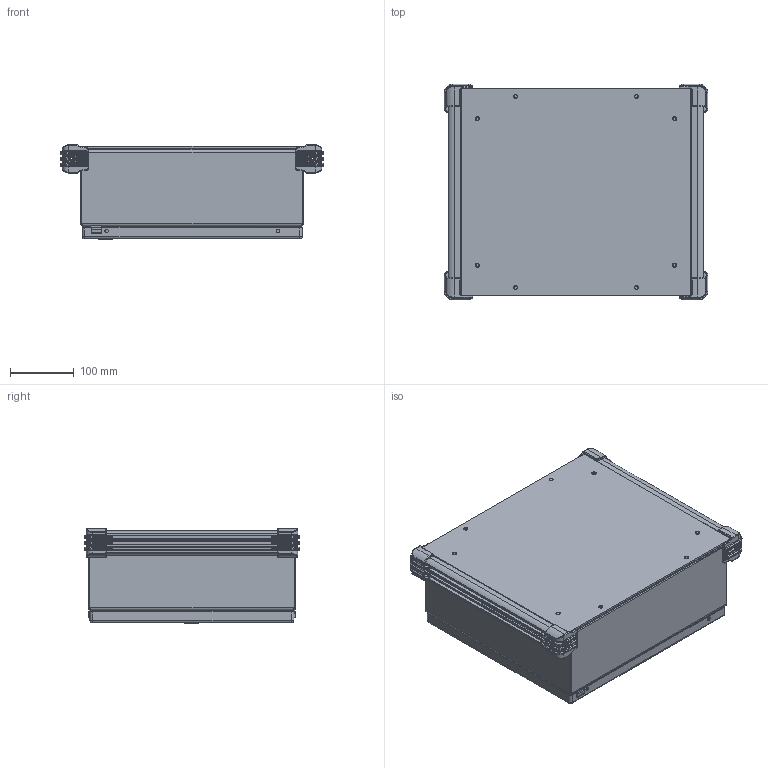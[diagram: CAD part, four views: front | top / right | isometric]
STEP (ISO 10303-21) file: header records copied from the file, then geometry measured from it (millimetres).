
FILE_DESCRIPTION (( 'STEP AP203' ), '1' );
FILE_NAME ('cp323512.STEP', '2012-06-08T13:43:52', ( 'User' ), ( 'Pentair Inc' ), 'SwSTEP 2.0', 'SolidWorks 2010', '' );
FILE_SCHEMA (( 'CONFIG_CONTROL_DESIGN' ));
Length unit declared in the file: inch
Products named in the file (38): cp323512; 89061113; 87789249_default; 99401225_Config-Drawing; 87938513_assy; 87938537_fip; 87938489; 87931362_87931362; 99401225; 87938558_87926013; 87921906_After Weld; 64101001; 64201001; 87541994_Installed Height; 87541995; 64202001; 64210001; 64203001; 87927840_87927840; 87932903; 64138001; 89061089; 87789217; 87541671_87541671; 87789173; 87789150; 87543027; 89076399; 89076193; 89056623; 87789736_ASSEMBLED; 89061408; 87792578; 87792576; 99416066; 87929507; 87929767; 87929769_Installed on Pin
Assembly tree (69 placements, depth 4):
  cp323512
    87938513_assy
      64101001
        87927840_87927840
        87541994_Installed Height
        87541995
        64203001
        64210001
        64201001
        64202001
      87938537_fip
        87938489
        87938558_87926013
        87921906_After Weld  x4
        99401225
        87931362_87931362  x2
      87932903  x2
      64138001  x2
    99416066  x4
    87789173  x2
    87789150  x4
    89076399  x2
      89076193
      89056623
    87792576  x4
    89061089
      87541671_87541671  x8
      87789217
    87929507  x2
      87929769_Installed on Pin
      87929767
    89061113
      99401225_Config-Drawing  x3
      87789249_default
    87792578  x4
    87543027  x2
    87789736_ASSEMBLED
      89061408  x2
Bounding box: 414.3 x 338.89 x 149.3 mm (x, y, z)
Volume: 1578111.4 mm3; surface area: 1294329.1 mm2
Topology: 64 solids, 64 shells, 3996 faces, 10071 edges, 6178 vertices
Faces by surface type: plane 1591, cylinder 1331, bspline 428, torus 350, cone 244, sphere 52
Entity records: 67683 total; most frequent: CARTESIAN_POINT 20849, ORIENTED_EDGE 9008, DIRECTION 8427, EDGE_CURVE 4504, AXIS2_PLACEMENT_3D 3094, VERTEX_POINT 2784, VECTOR 2239, LINE 2239
